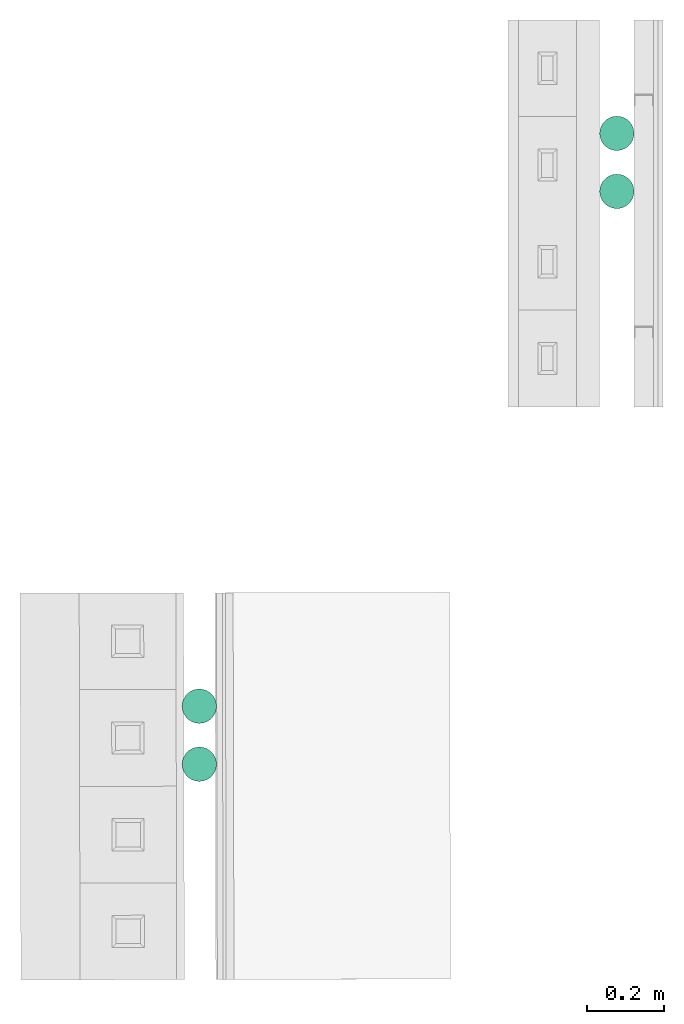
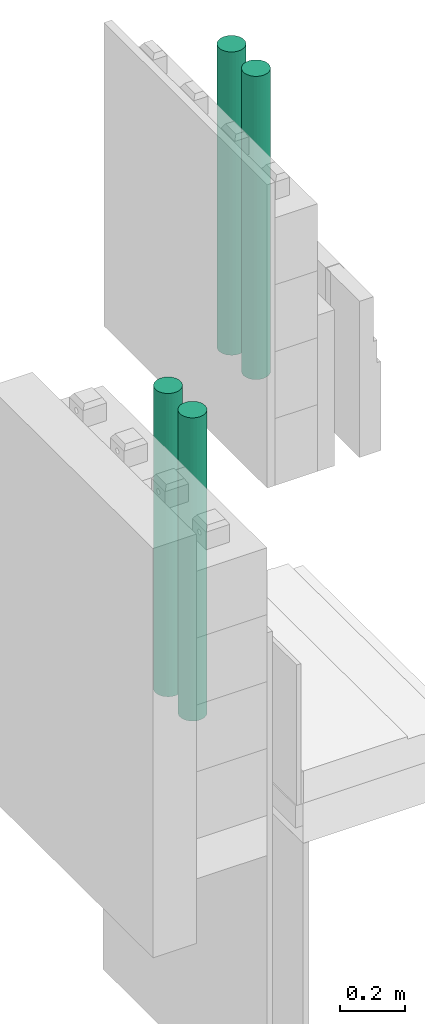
# One storey, part 2 of 2: 4 pipe segments.
"""IFC4 building model written with IfcOpenShell, lengths in centimetres."""

from ifc_helpers import new_model, entity, si_unit, converted_unit, direction, frame, origin, place, context, subcontext, project, spatial, arc, indexed_curve, outline, extrude, type_object, element, save


model = new_model("IFC4")

# Units and contexts
model_context = context("Model", 3, precision=0.001, world=origin(), true_north=direction((0.0, 1.0)))
body_context = subcontext(model_context, "Body", "Model", "MODEL_VIEW")
ifc_project = project(units=[si_unit("LENGTHUNIT", "METRE", prefix="CENTI"), si_unit("AREAUNIT", "SQUARE_METRE"), si_unit("VOLUMEUNIT", "CUBIC_METRE"), converted_unit("PLANEANGLEUNIT", "DEGREE", entity("IfcPlaneAngleMeasure", 0.017453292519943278), si_unit("PLANEANGLEUNIT", "RADIAN"), dimensions=[0, 0, 0, 0, 0, 0, 0])], contexts=[model_context])

# Site, building, storey
site_placement = place(None, origin())
site = spatial("IfcSite", under=ifc_project, at=site_placement, Name="Default", CompositionType="ELEMENT")
building_placement = place(site_placement, origin())
building = spatial("IfcBuilding", under=site, at=building_placement, CompositionType="ELEMENT")
storey_placement = place(building_placement, frame((0.0, 0.0, -12.0)))
storey = spatial("IfcBuildingStorey", under=building, at=storey_placement, Name="L00__ABOVE Slab", CompositionType="ELEMENT", Elevation=-12.000000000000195)

# Pipe segments
pipe_segment_type = type_object("IfcPipeSegmentType", Name="Pipes : Pipe Types : Default", PredefinedType="NOTDEFINED")
for number, where, name in (
    (1, (2438.9899294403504, 1421.4539652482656, 10.0), "Pipes : Pipe Types : Default"),
    (2, (2438.9899294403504, 1406.4539652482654, 10.0), "Pipes : Pipe Types : Default"),
):
    element("IfcPipeSegment", number, at=place(storey_placement, frame(where)), inside=storey, type_object=pipe_segment_type, Name=name, PredefinedType="NOTDEFINED", context=body_context, shape_type="SweptSolid", body=[
        extrude(outline(indexed_curve([(4.4449999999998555, -2.1657342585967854e-13), (3.1430896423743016, 3.143089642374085), (0.0, 4.4449999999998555), (-3.1430896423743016, 3.143089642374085), (-4.4449999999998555, -2.1657342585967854e-13), (-3.1430896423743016, -3.143089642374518), (0.0, -4.445000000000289), (3.1430896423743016, -3.143089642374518)], segments=[arc(1, 2, 3), arc(3, 4, 5), arc(5, 6, 7), arc(7, 8, 1)], self_intersect=False)), frame((4.604527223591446, 4.604527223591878, 0.0)), (0.0, 0.0, 1.0), 113.30894140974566),
    ])
for number, where, name in (
    (3, (2331.051243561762, 1273.3576825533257, 10.0), "Pipes : Pipe Types : Default"),
    (4, (2331.051243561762, 1258.3576825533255, 10.0), "Pipes : Pipe Types : Default"),
):
    element("IfcPipeSegment", number, at=place(storey_placement, frame(where)), inside=storey, type_object=pipe_segment_type, Name=name, PredefinedType="NOTDEFINED", context=body_context, shape_type="SweptSolid", body=[
        extrude(outline(indexed_curve([(4.4449999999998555, 0.0), (3.1430896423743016, 3.1430896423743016), (0.0, 4.445000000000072), (-3.1430896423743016, 3.1430896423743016), (-4.4449999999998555, 0.0), (-3.1430896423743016, -3.1430896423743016), (0.0, -4.445000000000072), (3.1430896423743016, -3.1430896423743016)], segments=[arc(1, 2, 3), arc(3, 4, 5), arc(5, 6, 7), arc(7, 8, 1)], self_intersect=False)), frame((4.604527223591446, 4.6045272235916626, 0.0)), (0.0, 0.0, 1.0), 113.30894140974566),
    ])

save(model, "model.ifc")
